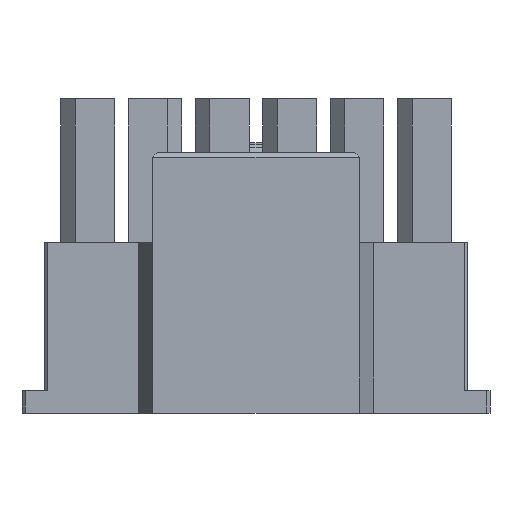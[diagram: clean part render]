
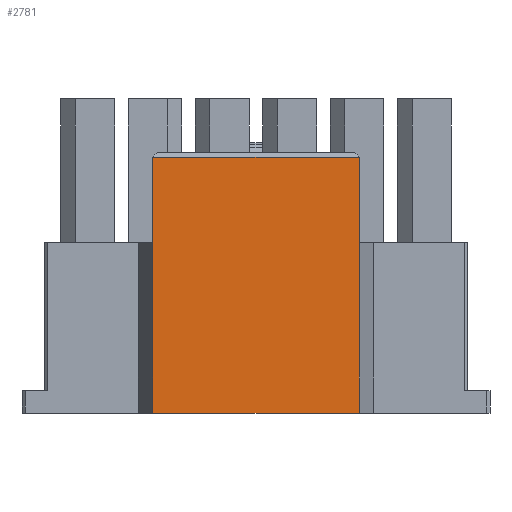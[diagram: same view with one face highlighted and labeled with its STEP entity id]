
A CAD part, front view. The second image highlights one B-rep face of the part: STEP entity #2781.
In plain terms, the highlighted planar face has unit normal (0, -1, 0).
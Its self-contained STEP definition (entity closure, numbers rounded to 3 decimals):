
#50=DIRECTION('',(0.,0.,-1.));
#51=VECTOR('',#50,7.6);
#52=CARTESIAN_POINT('',(-4.6,-1.05,7.6));
#53=LINE('',#52,#51);
#58=DIRECTION('',(1.,0.,0.));
#59=VECTOR('',#58,9.2);
#60=CARTESIAN_POINT('',(-4.6,-1.05,11.4));
#61=LINE('',#60,#59);
#62=DIRECTION('',(-1.,0.,0.));
#63=VECTOR('',#62,9.2);
#64=CARTESIAN_POINT('',(4.6,-1.05,0.));
#65=LINE('',#64,#63);
#114=DIRECTION('',(0.,0.,1.));
#115=VECTOR('',#114,3.8);
#116=CARTESIAN_POINT('',(4.6,-1.05,7.6));
#117=LINE('',#116,#115);
#358=DIRECTION('',(0.,0.,1.));
#359=VECTOR('',#358,7.6);
#360=CARTESIAN_POINT('',(4.6,-1.05,0.));
#361=LINE('',#360,#359);
#1330=DIRECTION('',(0.,0.,-1.));
#1331=VECTOR('',#1330,3.8);
#1332=CARTESIAN_POINT('',(-4.6,-1.05,11.4));
#1333=LINE('',#1332,#1331);
#2011=CARTESIAN_POINT('',(-4.6,-1.05,0.));
#2013=VERTEX_POINT('',#2011);
#2014=CARTESIAN_POINT('',(4.6,-1.05,0.));
#2015=VERTEX_POINT('',#2014);
#2046=CARTESIAN_POINT('',(4.6,-1.05,7.6));
#2047=VERTEX_POINT('',#2046);
#2048=CARTESIAN_POINT('',(-4.6,-1.05,11.4));
#2049=CARTESIAN_POINT('',(-4.6,-1.05,7.6));
#2050=VERTEX_POINT('',#2048);
#2051=VERTEX_POINT('',#2049);
#2653=CARTESIAN_POINT('',(4.6,-1.05,11.4));
#2655=VERTEX_POINT('',#2653);
#2764=CARTESIAN_POINT('',(0.,-1.05,5.7));
#2765=DIRECTION('',(0.,1.,0.));
#2766=DIRECTION('',(1.,0.,0.));
#2767=AXIS2_PLACEMENT_3D('',#2764,#2765,#2766);
#2768=PLANE('',#2767);
#2770=ORIENTED_EDGE('',*,*,#2769,.T.);
#2772=ORIENTED_EDGE('',*,*,#2771,.F.);
#2774=ORIENTED_EDGE('',*,*,#2773,.F.);
#2775=ORIENTED_EDGE('',*,*,#2675,.T.);
#2776=ORIENTED_EDGE('',*,*,#2748,.F.);
#2778=ORIENTED_EDGE('',*,*,#2777,.F.);
#2779=EDGE_LOOP('',(#2770,#2772,#2774,#2775,#2776,#2778));
#2780=FACE_OUTER_BOUND('',#2779,.F.);
#2781=ADVANCED_FACE('',(#2780),#2768,.F.);
#2675=EDGE_CURVE('',#2015,#2013,#65,.T.);
#2748=EDGE_CURVE('',#2051,#2013,#53,.T.);
#2769=EDGE_CURVE('',#2050,#2655,#61,.T.);
#2771=EDGE_CURVE('',#2047,#2655,#117,.T.);
#2773=EDGE_CURVE('',#2015,#2047,#361,.T.);
#2777=EDGE_CURVE('',#2050,#2051,#1333,.T.);
